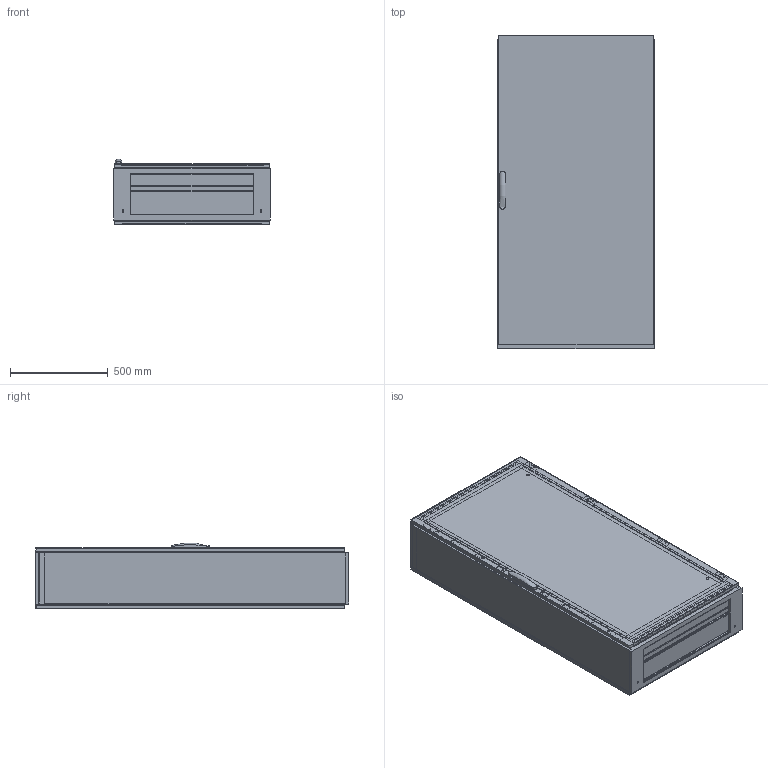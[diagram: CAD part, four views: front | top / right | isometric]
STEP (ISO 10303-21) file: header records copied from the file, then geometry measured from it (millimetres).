
FILE_DESCRIPTION(/* description */ ('STEP AP203'),/* implementation_level */ '2;1');
FILE_NAME(/* name */ 'MKS16083R5(0)',/* time_stamp */ '2024-02-22T08:53:10+01:00',/* author */ ('License CC BY-ND 4.0'),/* organization */ ('CADENAS'),/* preprocessor_version */ 'ST-DEVELOPER v19.3',/* originating_system */ 'PARTsolutions',/* authorisation */ ' ');
FILE_SCHEMA (('CONFIG_CONTROL_DESIGN'));
Length unit declared in the file: millimetre
Products named in the file (18): MKS16083R5(0); MKS16083R5(0)_Frame; CRPK08(0)_Rear Panel Mounting Kit; CRP1608R5(0)_Rear Panel; DNMK02(0)_Hinge Right; DN1608R5(0)_Plain door; LSSDXXXX(0)_Lock; LSSD1600(0)_Espagnolette Top; LSSD1600(0)_Espagnolette Bottom; DNMK01(0)_Rod catches; MPA06(0)_Mounting Plate Brackets 1; MP1608(0)_P1; MPA06(0)_Mounting Plate Brackets 2; MPA06(0)_Mounting Plate Brackets 3; MPA06(0)_Mounting Plate Brackets 4; CCR083R5(0)_MKD Roof plate; CBP080(0)_Bottom Plate 1; CBP080(0)_Bottom Plate 2
Assembly tree (30 placements, depth 2):
  MKS16083R5(0)
    MKS16083R5(0)_Frame
    CRPK08(0)_Rear Panel Mounting Kit  x8
    CRP1608R5(0)_Rear Panel
    DNMK02(0)_Hinge Right  x4
    DN1608R5(0)_Plain door
    LSSDXXXX(0)_Lock
    LSSD1600(0)_Espagnolette Top
    LSSD1600(0)_Espagnolette Bottom
    DNMK01(0)_Rod catches  x4
    MPA06(0)_Mounting Plate Brackets 1
    MP1608(0)_P1
    MPA06(0)_Mounting Plate Brackets 2
    MPA06(0)_Mounting Plate Brackets 3
    MPA06(0)_Mounting Plate Brackets 4
    CCR083R5(0)_MKD Roof plate
    CBP080(0)_Bottom Plate 1
    CBP080(0)_Bottom Plate 2
Bounding box: 800 x 1605 x 334.85 mm (x, y, z)
Volume: 20934184.1 mm3; surface area: 12568130.5 mm2
Topology: 30 solids, 30 shells, 1299 faces, 3369 edges, 2223 vertices
Faces by surface type: plane 1118, cylinder 122, cone 58, torus 1
Full cylindrical faces by diameter (mm): 2.55 x2, 5 x18, 5.2 x2, 6 x6, 7 x6, 7.4 x4, 8 x18, 9 x2, 10 x8, 13 x2, 14 x4
Entity records: 30612 total; most frequent: CARTESIAN_POINT 5294, ORIENTED_EDGE 4928, DIRECTION 4748, EDGE_CURVE 2464, LINE 2180, VECTOR 2180, VERTEX_POINT 1680, AXIS2_PLACEMENT_3D 1284
